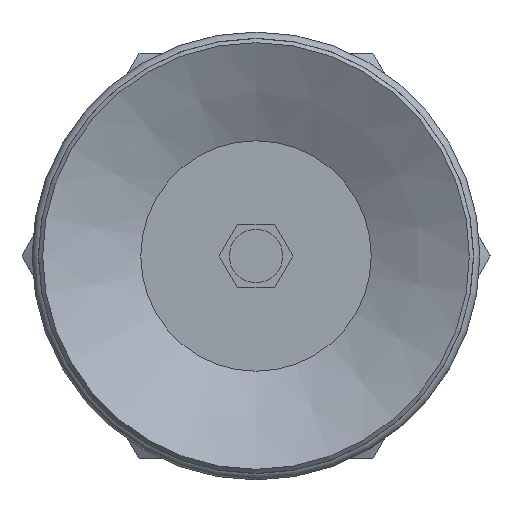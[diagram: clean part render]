
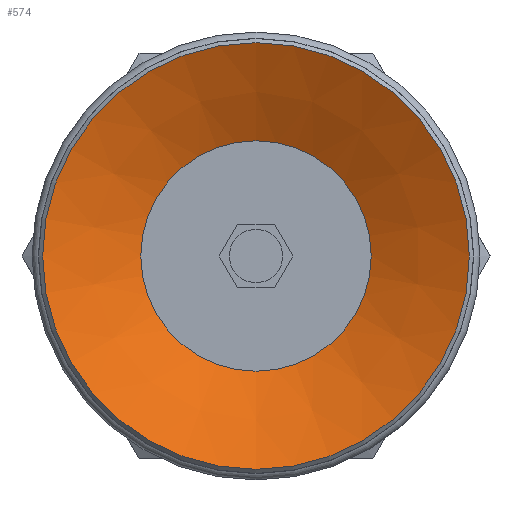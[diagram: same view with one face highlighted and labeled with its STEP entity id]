
A CAD part, front view. The second image highlights one B-rep face of the part: STEP entity #574.
In plain terms, the highlighted conical face has half-angle 63 degrees and reference radius 5.4 mm.
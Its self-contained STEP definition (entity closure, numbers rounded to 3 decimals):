
#574=ADVANCED_FACE('',(#870,#871),#872,.F.);
#870=FACE_BOUND('',#1167,.T.);
#871=FACE_OUTER_BOUND('',#1168,.T.);
#872=CONICAL_SURFACE('',#1169,5.4,1.1);
#1167=EDGE_LOOP('',(#1961));
#1168=EDGE_LOOP('',(#1962));
#1169=AXIS2_PLACEMENT_3D('',#1963,#1964,#1965);
#1961=ORIENTED_EDGE('',*,*,#2177,.F.);
#1962=ORIENTED_EDGE('',*,*,#2183,.T.);
#1963=CARTESIAN_POINT('',(0.0,5.518,0.0));
#1964=DIRECTION('',(-0.0,-1.0,0.));
#1965=DIRECTION('',(0.0,0.,-1.0));
#2177=EDGE_CURVE('',#2542,#2542,#2543,.T.);
#2183=EDGE_CURVE('',#2554,#2554,#2555,.T.);
#2542=VERTEX_POINT('',#3354);
#2543=CIRCLE('',#3355,5.4);
#2554=VERTEX_POINT('',#3366);
#2555=CIRCLE('',#3367,10.0);
#3354=CARTESIAN_POINT('',(0.0,5.518,-5.4));
#3355=AXIS2_PLACEMENT_3D('',#3697,#3698,#3699);
#3366=CARTESIAN_POINT('',(0.0,3.175,-10.0));
#3367=AXIS2_PLACEMENT_3D('',#3715,#3716,#3717);
#3697=CARTESIAN_POINT('',(0.0,5.518,0.0));
#3698=DIRECTION('',(0.0,-1.0,0.));
#3699=DIRECTION('',(0.0,0.,-1.0));
#3715=CARTESIAN_POINT('',(0.0,3.175,0.0));
#3716=DIRECTION('',(0.0,-1.0,0.));
#3717=DIRECTION('',(0.0,0.,-1.0));
